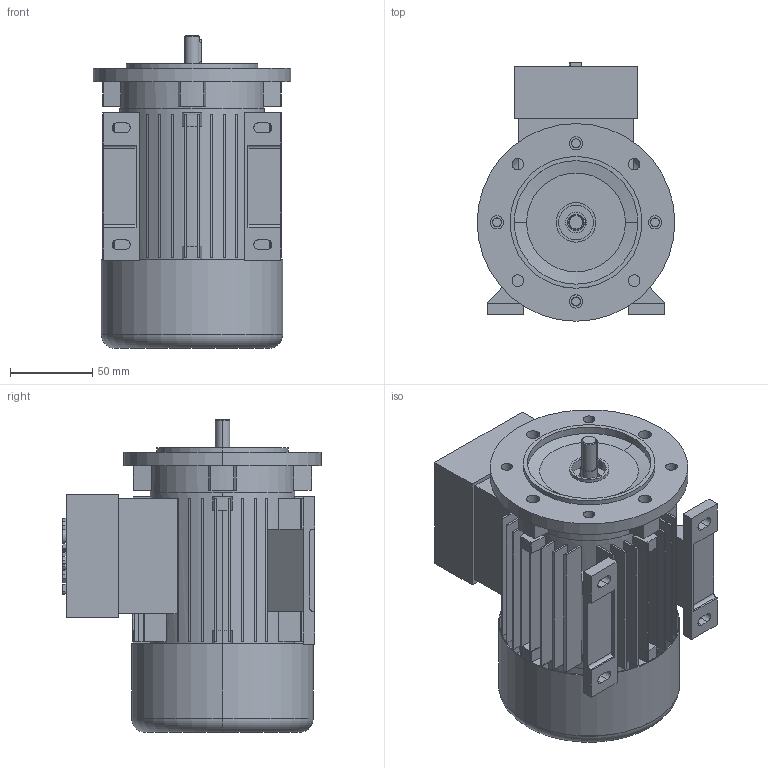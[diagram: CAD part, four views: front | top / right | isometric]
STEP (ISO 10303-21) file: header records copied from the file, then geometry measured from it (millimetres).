
FILE_DESCRIPTION (( 'STEP AP203' ), '1' );
FILE_NAME ('5AZ 56 config.STEP', '2018-07-03T05:57:05', ( '' ), ( '' ), 'SwSTEP 2.0', 'SolidWorks 2018', '' );
FILE_SCHEMA (( 'CONFIG_CONTROL_DESIGN' ));
Length unit declared in the file: millimetre
Products named in the file (1): 5AZ 56 config
Bounding box: 120 x 157 x 190 mm (x, y, z)
Volume: 635949.3 mm3; surface area: 275853.3 mm2
Topology: 7 solids, 7 shells, 587 faces, 1516 edges, 999 vertices
Faces by surface type: plane 402, cylinder 162, cone 10, bspline 9, torus 4
Entity records: 18101 total; most frequent: CARTESIAN_POINT 3292, DIRECTION 3099, ORIENTED_EDGE 3032, EDGE_CURVE 1516, AXIS2_PLACEMENT_3D 1034, LINE 1031, VECTOR 1031, VERTEX_POINT 999
